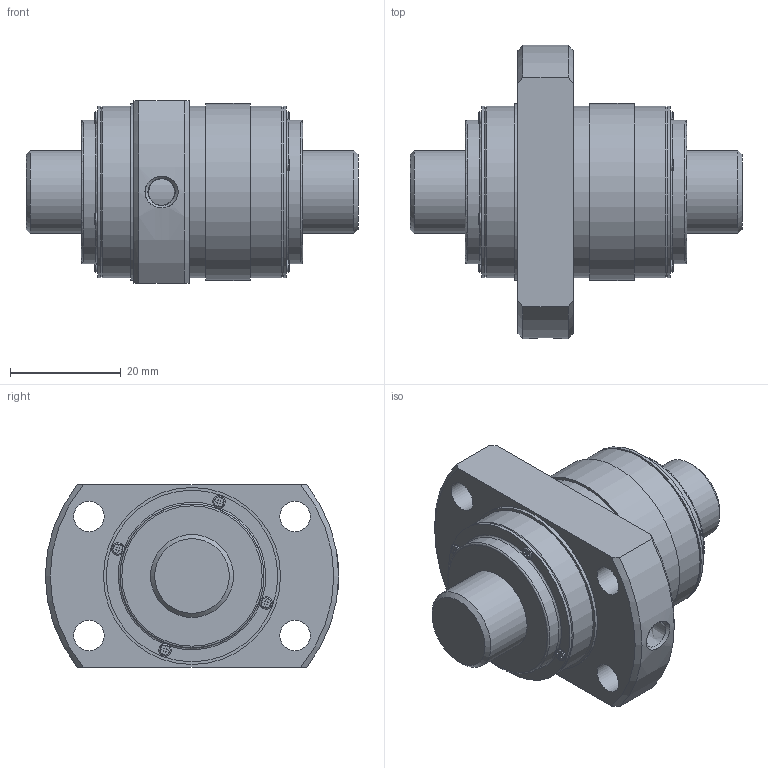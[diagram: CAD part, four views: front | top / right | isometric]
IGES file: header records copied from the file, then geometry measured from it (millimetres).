
Start section: Data from Parasolid IGES Translator 26.0.171, Copyright(c) 2006 Siemens PLM Software. All Rights Reserved.
Global section: file name: WTF1530-2ZZ+60LC7T_000_rev.igs; native system: By Siemens PLM Incorporated; preprocessor: XPlus GENERIC/IGES 26.0.171; author: Noname; organization: Noname; date: 20250611.063900; units: millimetre
Bounding box: 60 x 53 x 33 mm (x, y, z)
Surface area: 13171.1 mm2 (no closed solid volume)
Topology: 0 solids, 0 shells, 214 faces, 1128 edges, 1064 vertices
Faces by surface type: extrusion 127, revolution 87
